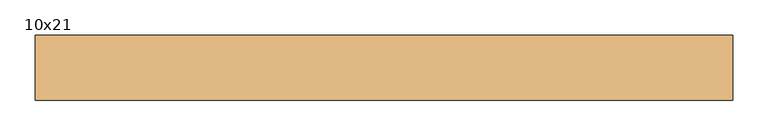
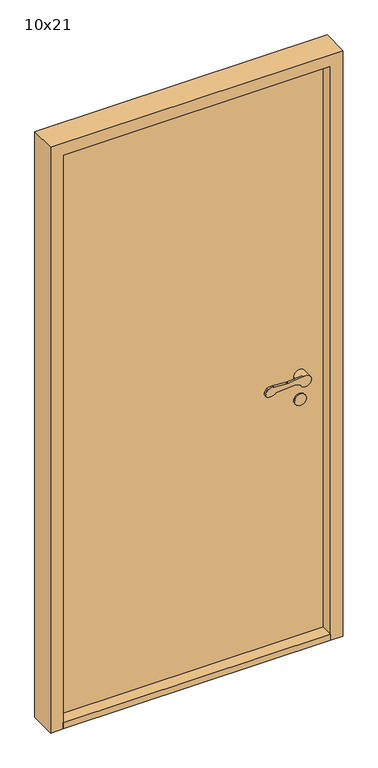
"""IFC4 building model written with IfcOpenShell, lengths in millimetres: door geometry, Innerdør Slett (Diplomat) : 10x21."""

from ifc_helpers import new_model, si_unit, point, frame, frame_2d, origin, origin_with_axes, place, context, project, spatial, polyline, circle_curve, trimmed, segment, composite_curve, outline, extrude, source, transform, mapped, element, save
from ifc_brep_helpers import plane_surface, cylinder_surface, revolved_surface, advanced_brep


def door_10x21_007e3bf5(model_context):
    return source(origin(), model_context, "Body", "SolidModel", [
        advanced_brep(
        [(393.9611305, 20.0, 949.1175955), (408.3841161, 20.0, 942.6204086), (446.379633, 20.0, 951.3474568), (417.2687793, 20.0, 969.1517356), (368.6891233, 20.0, 964.26032), (363.6202158, 20.0, 964.1804415), (318.8963175, 20.0, 967.2639242), (300.3175669, 20.0, 964.8810513), (295.505009, 20.0, 959.9624074), (291.8691983, 20.0, 951.8913379), (296.721536, 20.0, 938.7393398), (326.0476109, 20.0, 943.6260011), (388.8520664, 20.0, 949.9496913), (368.6891233, 27.1084716, 964.26032), (417.2687793, 27.1084716, 969.1517356), (406.379633, 27.1084716, 951.3474568), (408.3841161, 27.1084716, 942.6204086), (393.9611305, 27.1084716, 949.1175955), (388.8520664, 27.1084716, 949.9496913), (326.0476109, 27.1084716, 943.6260011), (296.721536, 27.1084716, 938.7393398), (291.8691983, 27.1084716, 951.8913379), (295.505009, 27.1084716, 959.9624074), (300.3175669, 27.1084716, 964.8810513), (318.8963175, 27.1084716, 967.2639242), (363.6202158, 27.1084716, 964.1804415), (446.379633, 55.0, 951.3474568), (406.379633, 55.0, 951.3474568)],
        [
            (0, 1),
            (1, 2, circle_curve(frame((426.379633, 20.0, 951.3474568), z_axis=(0.0, -1.0, 0.0), x_axis=(-1.0, 0.0, 0.0)), 20.0)),
            (2, 3, circle_curve(frame((426.379633, 20.0, 951.3474568), z_axis=(0.0, -1.0, 0.0), x_axis=(-1.0, 0.0, 0.0)), 20.0)),
            (3, 4),
            (4, 5, circle_curve(frame((365.683663, 20.0, 994.1093938), z_axis=(0.0, 1.0, 0.0), x_axis=(-0.9949691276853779, 0.0, -0.10018200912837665)), 30.0)),
            (5, 6),
            (6, 7, circle_curve(frame((313.2326797, 20.0, 937.8033877), z_axis=(0.0, -1.0, 0.0), x_axis=(-0.9949691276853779, 0.0, -0.10018200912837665)), 30.0)),
            (7, 8, circle_curve(frame((304.6226045, 20.0, 955.8551634), z_axis=(0.0, -1.0, 0.0), x_axis=(-0.9949691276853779, 0.0, -0.10018200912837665)), 10.0)),
            (8, 9),
            (9, 10, circle_curve(frame((300.9867937, 20.0, 947.7840939), z_axis=(0.0, -1.0, 0.0), x_axis=(-0.9949691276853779, 0.0, -0.10018200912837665)), 10.0)),
            (10, 11, circle_curve(frame((307.8569644, 20.0, 962.352734), z_axis=(0.0, -1.0, 0.0), x_axis=(-0.9949691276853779, 0.0, -0.10018200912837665)), 26.1072815)),
            (11, 12),
            (12, 0, circle_curve(frame((389.8538865, 20.0, 940.0), z_axis=(0.0, 1.0, 0.0), x_axis=(-0.9949691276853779, 0.0, -0.10018200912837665)), 10.0)),
            (13, 14),
            (14, 15, circle_curve(frame((426.379633, 27.1084716, 951.3474568), z_axis=(0.0, -1.0, 0.0), x_axis=(-1.0, 0.0, 0.0)), 20.0)),
            (15, 16, circle_curve(frame((426.379633, 27.1084716, 951.3474568), z_axis=(0.0, -1.0, 0.0), x_axis=(-1.0, 0.0, 0.0)), 20.0)),
            (16, 17),
            (17, 18, circle_curve(frame((389.8538865, 27.1084716, 940.0), z_axis=(0.0, -1.0, 0.0), x_axis=(-0.9949691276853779, 0.0, -0.10018200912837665)), 10.0)),
            (18, 19),
            (19, 20, circle_curve(frame((307.8569644, 27.1084716, 962.352734), z_axis=(0.0, 1.0, 0.0), x_axis=(-0.9949691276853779, 0.0, -0.10018200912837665)), 26.1072815)),
            (20, 21, circle_curve(frame((300.9867937, 27.1084716, 947.7840939), z_axis=(0.0, 1.0, 0.0), x_axis=(-0.9949691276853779, 0.0, -0.10018200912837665)), 10.0)),
            (21, 22),
            (22, 23, circle_curve(frame((304.6226045, 27.1084716, 955.8551634), z_axis=(0.0, 1.0, 0.0), x_axis=(-0.9949691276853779, 0.0, -0.10018200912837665)), 10.0)),
            (23, 24, circle_curve(frame((313.2326797, 27.1084716, 937.8033877), z_axis=(0.0, 1.0, 0.0), x_axis=(-0.9949691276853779, 0.0, -0.10018200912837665)), 30.0)),
            (24, 25),
            (25, 13, circle_curve(frame((365.683663, 27.1084716, 994.1093938), z_axis=(0.0, -1.0, 0.0), x_axis=(-0.9949691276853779, 0.0, -0.10018200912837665)), 30.0)),
            (3, 14),
            (13, 4),
            (16, 1),
            (0, 17),
            (12, 18),
            (11, 19),
            (10, 20),
            (9, 21),
            (8, 22),
            (7, 23),
            (6, 24),
            (5, 25),
            (26, 27, circle_curve(frame((426.379633, 55.0, 951.3474568), z_axis=(0.0, 1.0, 0.0), x_axis=(-1.0, 0.0, 0.0)), 20.0)),
            (27, 26, circle_curve(frame((426.379633, 55.0, 951.3474568), z_axis=(0.0, 1.0, 0.0), x_axis=(-1.0, 0.0, 0.0)), 20.0)),
            (26, 2),
            (15, 27),
        ],
        [
            plane_surface(frame((417.6960588, 20.0, 969.1947577), z_axis=(0.0, -1.0000000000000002, 0.0), x_axis=(0.9949691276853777, 0.0, 0.10018200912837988))),
            plane_surface(frame((417.6960588, 27.1084716, 969.1947577), z_axis=(0.0, 1.0000000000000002, 0.0), x_axis=(-0.9949691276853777, 0.0, -0.10018200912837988))),
            plane_surface(frame((368.6891233, 20.0, 964.26032), z_axis=(-0.10018200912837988, 0.0, 0.9949691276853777), x_axis=(0.0, 1.0, 0.0))),
            plane_surface(frame((426.9687366, 20.0, 934.2485115), z_axis=(-0.41072439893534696, 0.0, -0.91175954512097), x_axis=(0.0, 1.0, 0.0))),
            revolved_surface(polyline([(379.9041952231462, 27.1084716, 938.9981799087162), (379.9041952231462, 20.0, 938.9981799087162)]), (389.8538865, 27.1084716, 940.0), (0.0, 1.0, 0.0)),
            plane_surface(frame((388.8520664, 20.0, 949.9496913), z_axis=(0.10018200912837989, 0.0, -0.9949691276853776), x_axis=(0.0, 1.0, 0.0))),
            cylinder_surface(frame((307.8569644, 27.1084716, 962.352734), z_axis=(0.0, -1.0, 0.0), x_axis=(-0.9949691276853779, 0.0, -0.10018200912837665)), 26.1072815),
            cylinder_surface(frame((300.9867937, 27.1084716, 947.7840939), z_axis=(0.0, -1.0, 0.0), x_axis=(-0.9949691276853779, 0.0, -0.10018200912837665)), 10.0),
            plane_surface(frame((291.8691983, 20.0, 951.8913379), z_axis=(-0.9117595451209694, 0.0, 0.41072439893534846), x_axis=(0.0, 1.0, 0.0))),
            cylinder_surface(frame((304.6226045, 27.1084716, 955.8551634), z_axis=(0.0, -1.0, 0.0), x_axis=(-0.9949691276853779, 0.0, -0.10018200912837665)), 10.0),
            cylinder_surface(frame((313.2326797, 27.1084716, 937.8033877), z_axis=(0.0, -1.0, 0.0), x_axis=(-0.9949691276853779, 0.0, -0.10018200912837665)), 30.0),
            plane_surface(frame((318.8963175, 20.0, 967.2639242), z_axis=(0.06878157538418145, 0.0, 0.9976317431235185), x_axis=(0.0, 1.0, 0.0))),
            revolved_surface(polyline([(335.8345891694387, 27.1084716, 991.1039335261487), (335.8345891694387, 20.0, 991.1039335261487)]), (365.683663, 27.1084716, 994.1093938), (0.0, 1.0, 0.0)),
            plane_surface(frame((406.379633, 55.0, 951.3474568), z_axis=(0.0, 1.0, 0.0), x_axis=(0.0, 0.0, -1.0))),
            cylinder_surface(frame((426.379633, 55.0, 951.3474568), z_axis=(0.0, -1.0, 0.0), x_axis=(-1.0, 0.0, 0.0)), 20.0),
        ],
        [
            (0, [[1, 2, 3, 4, 5, 6, 7, 8, 9, 10, 11, 12, 13]]),
            (1, [[14, 15, 16, 17, 18, 19, 20, 21, 22, 23, 24, 25, 26]]),
            (2, [[-4, 27, -14, 28]]),
            (3, [[-17, 29, -1, 30]]),
            (4, [[31, -18, -30, -13]]),
            (5, [[32, -19, -31, -12]]),
            (6, [[33, -20, -32, -11]]),
            (7, [[34, -21, -33, -10]]),
            (8, [[35, -22, -34, -9]]),
            (9, [[36, -23, -35, -8]]),
            (10, [[37, -24, -36, -7]]),
            (11, [[38, -25, -37, -6]]),
            (12, [[-28, -26, -38, -5]]),
            (13, [[39, 40]]),
            (14, [[41, -2, -29, -16, 42, -39]]),
            (14, [[-42, -15, -27, -3, -41, -40]]),
        ],
    ),
        extrude(outline(composite_curve([segment(trimmed(circle_curve(frame_2d((866.3474568, 426.379633)), 20.0), [point((866.3474568, 446.379633))], [point((866.3474568, 406.379633))], False, "CARTESIAN"), True, "CONTINUOUS"), segment(trimmed(circle_curve(frame_2d((866.3474568, 426.379633)), 20.0), [point((866.3474568, 406.379633))], [point((866.3474568, 446.379633))], False, "CARTESIAN"), True, "CONTINUOUS")], self_intersect=False)), frame((0.0, 50.0, 0.0), z_axis=(0.0, 1.0, 0.0), x_axis=(0.0, 0.0, 1.0)), (0.0, 0.0, 1.0), 5.0),
        advanced_brep(
        [(393.9611305, 100.0, 949.1175955), (388.8520664, 100.0, 949.9496913), (326.0476109, 100.0, 943.6260011), (296.721536, 100.0, 938.7393398), (291.8691983, 100.0, 951.8913379), (295.505009, 100.0, 959.9624074), (300.3175669, 100.0, 964.8810513), (318.8963175, 100.0, 967.2639242), (363.6202158, 100.0, 964.1804415), (368.6891233, 100.0, 964.26032), (417.2687793, 100.0, 969.1517356), (446.379633, 100.0, 951.3474568), (408.3841161, 100.0, 942.6204086), (368.6891233, 92.8915284, 964.26032), (363.6202158, 92.8915284, 964.1804415), (318.8963175, 92.8915284, 967.2639242), (300.3175669, 92.8915284, 964.8810513), (295.505009, 92.8915284, 959.9624074), (291.8691983, 92.8915284, 951.8913379), (296.721536, 92.8915284, 938.7393398), (326.0476109, 92.8915284, 943.6260011), (388.8520664, 92.8915284, 949.9496913), (393.9611305, 92.8915284, 949.1175955), (408.3841161, 92.8915284, 942.6204086), (406.379633, 92.8915284, 951.3474568), (417.2687793, 92.8915284, 969.1517356), (446.379633, 65.0, 951.3474568), (406.379633, 65.0, 951.3474568)],
        [
            (0, 1, circle_curve(frame((389.8538865, 100.0, 940.0), z_axis=(0.0, -1.0, 0.0), x_axis=(-0.9949691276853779, 0.0, -0.10018200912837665)), 10.0)),
            (1, 2),
            (2, 3, circle_curve(frame((307.8569644, 100.0, 962.352734), z_axis=(0.0, 1.0, 0.0), x_axis=(-0.9949691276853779, 0.0, -0.10018200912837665)), 26.1072815)),
            (3, 4, circle_curve(frame((300.9867937, 100.0, 947.7840939), z_axis=(0.0, 1.0, 0.0), x_axis=(-0.9949691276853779, 0.0, -0.10018200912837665)), 10.0)),
            (4, 5),
            (5, 6, circle_curve(frame((304.6226045, 100.0, 955.8551634), z_axis=(0.0, 1.0, 0.0), x_axis=(-0.9949691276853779, 0.0, -0.10018200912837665)), 10.0)),
            (6, 7, circle_curve(frame((313.2326797, 100.0, 937.8033877), z_axis=(0.0, 1.0, 0.0), x_axis=(-0.9949691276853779, 0.0, -0.10018200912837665)), 30.0)),
            (7, 8),
            (8, 9, circle_curve(frame((365.683663, 100.0, 994.1093938), z_axis=(0.0, -1.0, 0.0), x_axis=(-0.9949691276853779, 0.0, -0.10018200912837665)), 30.0)),
            (9, 10),
            (10, 11, circle_curve(frame((426.379633, 100.0, 951.3474568), z_axis=(0.0, 1.0, 0.0), x_axis=(-1.0, 0.0, 0.0)), 20.0)),
            (11, 12, circle_curve(frame((426.379633, 100.0, 951.3474568), z_axis=(0.0, 1.0, 0.0), x_axis=(-1.0, 0.0, 0.0)), 20.0)),
            (12, 0),
            (13, 14, circle_curve(frame((365.683663, 92.8915284, 994.1093938), z_axis=(0.0, 1.0, 0.0), x_axis=(-0.9949691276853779, 0.0, -0.10018200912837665)), 30.0)),
            (14, 15),
            (15, 16, circle_curve(frame((313.2326797, 92.8915284, 937.8033877), z_axis=(0.0, -1.0, 0.0), x_axis=(-0.9949691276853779, 0.0, -0.10018200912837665)), 30.0)),
            (16, 17, circle_curve(frame((304.6226045, 92.8915284, 955.8551634), z_axis=(0.0, -1.0, 0.0), x_axis=(-0.9949691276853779, 0.0, -0.10018200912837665)), 10.0)),
            (17, 18),
            (18, 19, circle_curve(frame((300.9867937, 92.8915284, 947.7840939), z_axis=(0.0, -1.0, 0.0), x_axis=(-0.9949691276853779, 0.0, -0.10018200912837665)), 10.0)),
            (19, 20, circle_curve(frame((307.8569644, 92.8915284, 962.352734), z_axis=(0.0, -1.0, 0.0), x_axis=(-0.9949691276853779, 0.0, -0.10018200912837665)), 26.1072815)),
            (20, 21),
            (21, 22, circle_curve(frame((389.8538865, 92.8915284, 940.0), z_axis=(0.0, 1.0, 0.0), x_axis=(-0.9949691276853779, 0.0, -0.10018200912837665)), 10.0)),
            (22, 23),
            (23, 24, circle_curve(frame((426.379633, 92.8915284, 951.3474568), z_axis=(0.0, 1.0, 0.0), x_axis=(-1.0, 0.0, 0.0)), 20.0)),
            (24, 25, circle_curve(frame((426.379633, 92.8915284, 951.3474568), z_axis=(0.0, 1.0, 0.0), x_axis=(-1.0, 0.0, 0.0)), 20.0)),
            (25, 13),
            (9, 13),
            (25, 10),
            (22, 0),
            (12, 23),
            (21, 1),
            (20, 2),
            (19, 3),
            (18, 4),
            (17, 5),
            (16, 6),
            (15, 7),
            (14, 8),
            (26, 27, circle_curve(frame((426.379633, 65.0, 951.3474568), z_axis=(0.0, -1.0, 0.0), x_axis=(-1.0, 0.0, 0.0)), 20.0)),
            (27, 26, circle_curve(frame((426.379633, 65.0, 951.3474568), z_axis=(0.0, -1.0, 0.0), x_axis=(-1.0, 0.0, 0.0)), 20.0)),
            (27, 24),
            (11, 26),
        ],
        [
            plane_surface(frame((417.6960588, 100.0, 969.1947577), z_axis=(0.0, 1.0000000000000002, 0.0), x_axis=(0.9949691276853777, 0.0, 0.10018200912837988))),
            plane_surface(frame((417.6960588, 92.8915284, 969.1947577), z_axis=(0.0, -1.0000000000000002, 0.0), x_axis=(-0.9949691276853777, 0.0, -0.10018200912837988))),
            plane_surface(frame((368.6891233, 100.0, 964.26032), z_axis=(-0.10018200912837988, 0.0, 0.9949691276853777), x_axis=(0.0, -1.0, 0.0))),
            plane_surface(frame((426.9687366, 100.0, 934.2485115), z_axis=(-0.41072439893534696, 0.0, -0.91175954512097), x_axis=(0.0, -1.0, 0.0))),
            revolved_surface(polyline([(379.9041952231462, 92.8915284, 938.9981799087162), (379.9041952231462, 100.0, 938.9981799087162)]), (389.8538865, 92.8915284, 940.0), (0.0, -1.0, 0.0)),
            plane_surface(frame((388.8520664, 100.0, 949.9496913), z_axis=(0.10018200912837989, 0.0, -0.9949691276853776), x_axis=(0.0, -1.0, 0.0))),
            cylinder_surface(frame((307.8569644, 92.8915284, 962.352734), z_axis=(0.0, 1.0, 0.0), x_axis=(-0.9949691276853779, 0.0, -0.10018200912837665)), 26.1072815),
            cylinder_surface(frame((300.9867937, 92.8915284, 947.7840939), z_axis=(0.0, 1.0, 0.0), x_axis=(-0.9949691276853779, 0.0, -0.10018200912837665)), 10.0),
            plane_surface(frame((291.8691983, 100.0, 951.8913379), z_axis=(-0.9117595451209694, 0.0, 0.41072439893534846), x_axis=(0.0, -1.0, 0.0))),
            cylinder_surface(frame((304.6226045, 92.8915284, 955.8551634), z_axis=(0.0, 1.0, 0.0), x_axis=(-0.9949691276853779, 0.0, -0.10018200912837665)), 10.0),
            cylinder_surface(frame((313.2326797, 92.8915284, 937.8033877), z_axis=(0.0, 1.0, 0.0), x_axis=(-0.9949691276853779, 0.0, -0.10018200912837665)), 30.0),
            plane_surface(frame((318.8963175, 100.0, 967.2639242), z_axis=(0.06878157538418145, 0.0, 0.9976317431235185), x_axis=(0.0, -1.0, 0.0))),
            revolved_surface(polyline([(335.8345891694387, 92.8915284, 991.1039335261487), (335.8345891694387, 100.0, 991.1039335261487)]), (365.683663, 92.8915284, 994.1093938), (0.0, -1.0, 0.0)),
            plane_surface(frame((406.379633, 65.0, 951.3474568), z_axis=(0.0, -1.0, 0.0), x_axis=(0.0, 0.0, -1.0))),
            cylinder_surface(frame((426.379633, 65.0, 951.3474568), z_axis=(0.0, 1.0, 0.0), x_axis=(-1.0, 0.0, 0.0)), 20.0),
        ],
        [
            (0, [[1, 2, 3, 4, 5, 6, 7, 8, 9, 10, 11, 12, 13]]),
            (1, [[14, 15, 16, 17, 18, 19, 20, 21, 22, 23, 24, 25, 26]]),
            (2, [[27, -26, 28, -10]]),
            (3, [[29, -13, 30, -23]]),
            (4, [[-1, -29, -22, 31]]),
            (5, [[-2, -31, -21, 32]]),
            (6, [[-3, -32, -20, 33]]),
            (7, [[-4, -33, -19, 34]]),
            (8, [[-5, -34, -18, 35]]),
            (9, [[-6, -35, -17, 36]]),
            (10, [[-7, -36, -16, 37]]),
            (11, [[-8, -37, -15, 38]]),
            (12, [[-9, -38, -14, -27]]),
            (13, [[39, 40]]),
            (14, [[-40, 41, -24, -30, -12, 42]]),
            (14, [[-39, -42, -11, -28, -25, -41]]),
        ],
    ),
        extrude(outline(composite_curve([segment(trimmed(circle_curve(frame_2d((866.3474568, 426.379633)), 20.0), [point((866.3474568, 446.379633))], [point((866.3474568, 406.379633))], False, "CARTESIAN"), True, "CONTINUOUS"), segment(trimmed(circle_curve(frame_2d((866.3474568, 426.379633)), 20.0), [point((866.3474568, 406.379633))], [point((866.3474568, 446.379633))], False, "CARTESIAN"), True, "CONTINUOUS")], self_intersect=False)), frame((0.0, 65.0, 0.0), z_axis=(0.0, 1.0, 0.0), x_axis=(0.0, 0.0, 1.0)), (0.0, 0.0, 1.0), 5.0),
        extrude(outline(polyline([(506.379633, 13.0), (-399.620367, 13.0), (-399.620367, 105.0), (506.379633, 105.0), (506.379633, 13.0)])), origin_with_axes(), (0.0, 0.0, 1.0), 22.0),
        extrude(outline(polyline([(506.379633, 55.0), (-399.620367, 55.0), (-399.620367, 105.0), (506.379633, 105.0), (506.379633, 55.0)])), frame((0.0, 0.0, 22.0), z_axis=(0.0, 0.0, 1.0), x_axis=(1.0, 0.0, 0.0)), (0.0, 0.0, 1.0), 2031.0),
        extrude(outline(polyline([(0.0, -441.620367), (0.0, -399.620367), (2053.0, -399.620367), (2053.0, 506.379633), (0.0, 506.379633), (0.0, 548.379633), (2095.0, 548.379633), (2095.0, -441.620367), (0.0, -441.620367)])), frame((0.0, 13.0, 0.0), z_axis=(0.0, 1.0, 0.0), x_axis=(0.0, 0.0, 1.0)), (0.0, 0.0, 1.0), 92.0),
    ])


if __name__ == "__main__":
    model = new_model("IFC4")
    model_context = context("Model", 3, world=origin())
    ifc_project = project(units=[si_unit("LENGTHUNIT", "METRE", prefix="MILLI")], contexts=[model_context])
    site = spatial("IfcSite", under=ifc_project)
    building = spatial("IfcBuilding", under=site)
    placement = place(None, origin())
    door_10x21_shape = door_10x21_007e3bf5(model_context)
    element("IfcDoor", 1, ObjectType="Innerdør Slett (Diplomat) : 10x21", at=placement, inside=building, context=model_context, shape_type="MappedRepresentation", body=[
        mapped(door_10x21_shape, transform((0.0, 0.0, 0.0), x_axis=(1.0, 0.0, 0.0), y_axis=(0.0, 1.0, 0.0), z_axis=(0.0, 0.0, 1.0))),
    ])
    save(model, "model.ifc")
